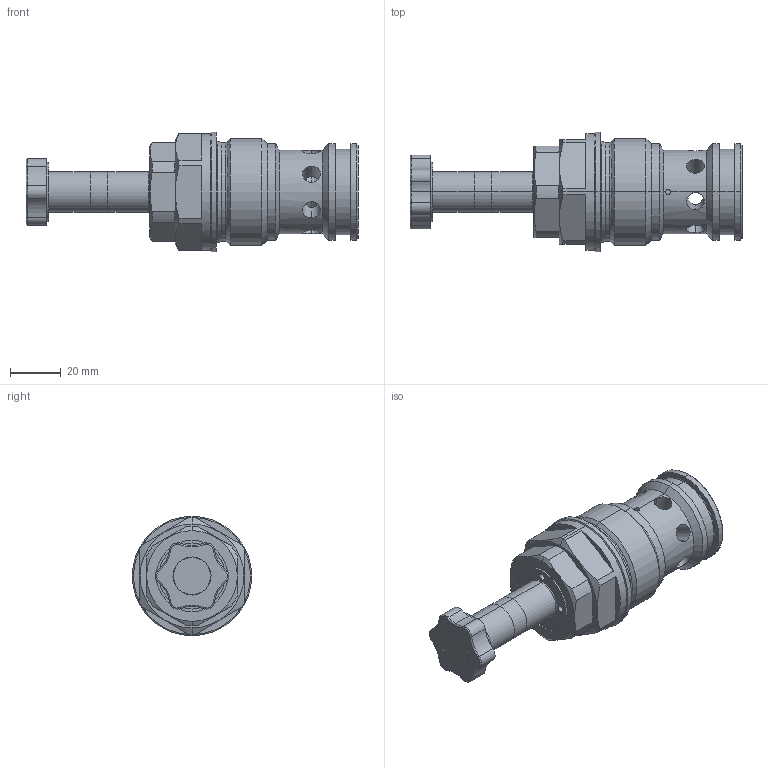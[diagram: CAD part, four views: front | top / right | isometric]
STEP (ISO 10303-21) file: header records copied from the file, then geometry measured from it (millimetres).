
FILE_DESCRIPTION (( 'STEP AP214' ), '1' );
FILE_NAME ('SVSPM42.STEP', '2014-05-28T10:00:15', ( '' ), ( '' ), 'SwSTEP 2.0', 'SolidWorks 2014', '' );
FILE_SCHEMA (( 'AUTOMOTIVE_DESIGN' ));
Length unit declared in the file: millimetre
Products named in the file (1): SVSPM42
Bounding box: 130.7 x 47 x 47 mm (x, y, z)
Volume: 104084.4 mm3; surface area: 28169.8 mm2
Topology: 5 solids, 5 shells, 240 faces, 546 edges, 318 vertices
Faces by surface type: cylinder 98, cone 59, torus 43, plane 40
Entity records: 9846 total; most frequent: CARTESIAN_POINT 1809, DIRECTION 1268, ORIENTED_EDGE 1076, AXIS2_PLACEMENT_3D 543, EDGE_CURVE 538, VERTEX_POINT 318, CIRCLE 302, EDGE_LOOP 266
